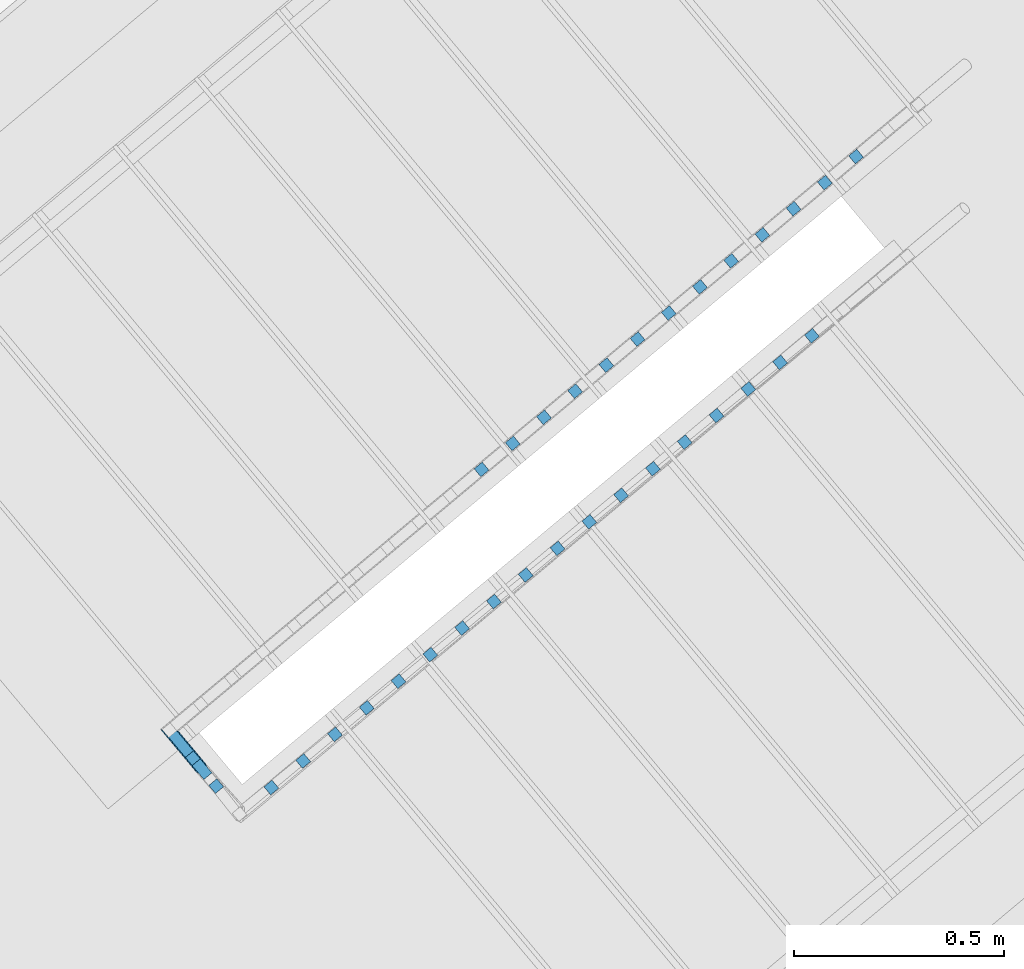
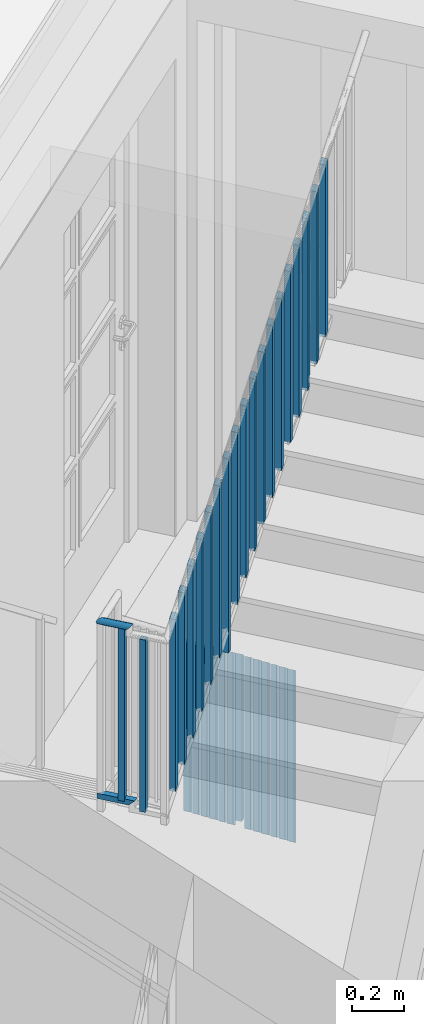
# One storey, part 55 of 67: 35 building element parts, 1 element without a shape of its own.
"""IFC4 building model written with IfcOpenShell, lengths in metres."""

from ifc_helpers import new_model, entity, si_unit, converted_unit, derived_unit, direction, frame, origin_with_axes, place, context, subcontext, project, spatial, polygons, material, type_object, element, aggregate, save


model = new_model("IFC4")

# Units and contexts
model_context = context("Model", 3, precision=1e-05, world=origin_with_axes(), true_north=direction((0.0, 1.0)))
body_context = subcontext(model_context, "Body", "Model", "MODEL_VIEW")
ifc_project = project(units=[si_unit("LENGTHUNIT", "METRE"), si_unit("AREAUNIT", "SQUARE_METRE"), si_unit("VOLUMEUNIT", "CUBIC_METRE"), converted_unit("PLANEANGLEUNIT", "DEGREE", entity("IfcPlaneAngleMeasure", 0.0174532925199), si_unit("PLANEANGLEUNIT", "RADIAN"), dimensions=[0, 0, 0, 0, 0, 0, 0]), converted_unit("TIMEUNIT", "Year", entity("IfcTimeMeasure", 31556926.0), si_unit("TIMEUNIT", "SECOND"), dimensions=[0, 0, 1, 0, 0, 0, 0]), si_unit("MASSUNIT", "GRAM", prefix="KILO"), si_unit("THERMODYNAMICTEMPERATUREUNIT", "DEGREE_CELSIUS"), si_unit("LUMINOUSINTENSITYUNIT", "LUMEN"), si_unit("ENERGYUNIT", "JOULE", prefix="MEGA"), derived_unit("THERMALCONDUCTANCEUNIT", [(si_unit("POWERUNIT", "WATT"), 1), (si_unit("LENGTHUNIT", "METRE"), -1), (si_unit("THERMODYNAMICTEMPERATUREUNIT", "KELVIN"), -1)]), derived_unit("SPECIFICHEATCAPACITYUNIT", [(si_unit("ENERGYUNIT", "JOULE"), 1), (si_unit("MASSUNIT", "GRAM", prefix="KILO"), -1), (si_unit("THERMODYNAMICTEMPERATUREUNIT", "KELVIN"), -1)]), derived_unit("MASSDENSITYUNIT", [(si_unit("MASSUNIT", "GRAM", prefix="KILO"), 1), (si_unit("VOLUMEUNIT", "CUBIC_METRE"), -1)])], contexts=[model_context])

# Site, building, storey
site_placement = place(None, frame((-0.00153261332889, -0.00661245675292, 0.0), z_axis=(0.0, 0.0, 1.0), x_axis=(1.0, 0.0, 0.0)))
site = spatial("IfcSite", under=ifc_project, at=site_placement, Name="Site", CompositionType="ELEMENT")
building_placement = place(site_placement, origin_with_axes())
building = spatial("IfcBuilding", under=site, at=building_placement, Name="Building", CompositionType="ELEMENT")
storey_placement = place(building_placement, frame((0.0, 0.0, -0.22), z_axis=(0.0, 0.0, 1.0), x_axis=(1.0, 0.0, 0.0)))
storey = spatial("IfcBuildingStorey", under=building, at=storey_placement, Name="EG", CompositionType="ELEMENT", Elevation=-0.22)

# Railing, building element parts
railing_type = type_object("IfcRailingType", Name="Geländerart", PredefinedType="NOTDEFINED")
railing_placement = place(storey_placement, frame((-0.398547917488, 23.8355657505, 0.05), z_axis=(0.0, 0.0, 1.0), x_axis=(1.0, 0.0, 0.0)))
railing = element("IfcRailing", 1, at=railing_placement, inside=storey, type_object=railing_type, Name="Geländer - 001", PredefinedType="NOTDEFINED")
ifc_material = material(Name="BEKLEIDUNG")
building_element_part_1_placement = place(railing_placement, origin_with_axes())
building_element_part_1 = element("IfcBuildingElementPart", 2, at=building_element_part_1_placement, material=ifc_material, Name="BEKLEIDUNG", PredefinedType="NOTDEFINED", context=body_context, shape_type="Tessellation", body=[
    polygons([(-0.198088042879, -0.0840608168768, 0.230543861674), (-0.182058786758, -0.103245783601, 0.230543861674), (-0.182058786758, -0.103245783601, 1.03804386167), (-0.198088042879, -0.0840608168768, 1.03804386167), (-0.178903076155, -0.0680315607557, 0.211051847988), (-0.162873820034, -0.0872165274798, 0.211051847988), (-0.162873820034, -0.0872165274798, 1.01855184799), (-0.178903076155, -0.0680315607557, 1.01855184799)], [[[1, 2, 3, 4]], [[1, 5, 6, 2]], [[2, 6, 7, 3]], [[4, 3, 7, 8]], [[5, 1, 4, 8]], [[6, 5, 8, 7]]], closed=True),
])
building_element_part_2_placement = place(railing_placement, origin_with_axes())
building_element_part_2 = element("IfcBuildingElementPart", 3, at=building_element_part_2_placement, material=ifc_material, Name="BEKLEIDUNG", PredefinedType="NOTDEFINED", context=body_context, shape_type="Tessellation", body=[
    polygons([(-0.272299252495, -0.146065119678, 0.30594278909), (-0.256269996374, -0.165250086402, 0.30594278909), (-0.256269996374, -0.165250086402, 1.11344278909), (-0.272299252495, -0.146065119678, 1.11344278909), (-0.253114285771, -0.130035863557, 0.286450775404), (-0.23708502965, -0.149220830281, 0.286450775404), (-0.23708502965, -0.149220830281, 1.0939507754), (-0.253114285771, -0.130035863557, 1.0939507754)], [[[1, 2, 3, 4]], [[1, 5, 6, 2]], [[2, 6, 7, 3]], [[4, 3, 7, 8]], [[5, 1, 4, 8]], [[6, 5, 8, 7]]], closed=True),
])
building_element_part_3_placement = place(railing_placement, origin_with_axes())
building_element_part_3 = element("IfcBuildingElementPart", 4, at=building_element_part_3_placement, material=ifc_material, Name="BEKLEIDUNG", PredefinedType="NOTDEFINED", context=body_context, shape_type="Tessellation", body=[
    polygons([(-0.346510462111, -0.20806942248, 0.381341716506), (-0.33048120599, -0.227254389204, 0.381341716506), (-0.33048120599, -0.227254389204, 1.18884171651), (-0.346510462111, -0.20806942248, 1.18884171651), (-0.327325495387, -0.192040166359, 0.36184970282), (-0.311296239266, -0.211225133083, 0.36184970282), (-0.311296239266, -0.211225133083, 1.16934970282), (-0.327325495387, -0.192040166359, 1.16934970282)], [[[1, 2, 3, 4]], [[1, 5, 6, 2]], [[2, 6, 7, 3]], [[4, 3, 7, 8]], [[5, 1, 4, 8]], [[6, 5, 8, 7]]], closed=True),
])
building_element_part_4_placement = place(railing_placement, origin_with_axes())
building_element_part_4 = element("IfcBuildingElementPart", 5, at=building_element_part_4_placement, material=ifc_material, Name="BEKLEIDUNG", PredefinedType="NOTDEFINED", context=body_context, shape_type="Tessellation", body=[
    polygons([(-0.420721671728, -0.270073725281, 0.456740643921), (-0.404692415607, -0.289258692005, 0.456740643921), (-0.404692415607, -0.289258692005, 1.26424064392), (-0.420721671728, -0.270073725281, 1.26424064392), (-0.401536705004, -0.25404446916, 0.437248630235), (-0.385507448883, -0.273229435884, 0.437248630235), (-0.385507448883, -0.273229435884, 1.24474863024), (-0.401536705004, -0.25404446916, 1.24474863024)], [[[1, 2, 3, 4]], [[1, 5, 6, 2]], [[2, 6, 7, 3]], [[4, 3, 7, 8]], [[5, 1, 4, 8]], [[6, 5, 8, 7]]], closed=True),
])
building_element_part_5_placement = place(railing_placement, origin_with_axes())
building_element_part_5 = element("IfcBuildingElementPart", 6, at=building_element_part_5_placement, material=ifc_material, Name="BEKLEIDUNG", PredefinedType="NOTDEFINED", context=body_context, shape_type="Tessellation", body=[
    polygons([(-0.494932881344, -0.332078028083, 0.532139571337), (-0.478903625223, -0.351262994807, 0.532139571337), (-0.478903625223, -0.351262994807, 1.33963957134), (-0.494932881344, -0.332078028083, 1.33963957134), (-0.47574791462, -0.316048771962, 0.512647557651), (-0.459718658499, -0.335233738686, 0.512647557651), (-0.459718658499, -0.335233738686, 1.32014755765), (-0.47574791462, -0.316048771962, 1.32014755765)], [[[1, 2, 3, 4]], [[1, 5, 6, 2]], [[2, 6, 7, 3]], [[4, 3, 7, 8]], [[5, 1, 4, 8]], [[6, 5, 8, 7]]], closed=True),
])
building_element_part_6_placement = place(railing_placement, origin_with_axes())
building_element_part_6 = element("IfcBuildingElementPart", 7, at=building_element_part_6_placement, material=ifc_material, Name="BEKLEIDUNG", PredefinedType="NOTDEFINED", context=body_context, shape_type="Tessellation", body=[
    polygons([(-0.56914409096, -0.394082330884, 0.607538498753), (-0.553114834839, -0.413267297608, 0.607538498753), (-0.553114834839, -0.413267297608, 1.41503849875), (-0.56914409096, -0.394082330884, 1.41503849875), (-0.549959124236, -0.378053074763, 0.588046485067), (-0.533929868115, -0.397238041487, 0.588046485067), (-0.533929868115, -0.397238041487, 1.39554648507), (-0.549959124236, -0.378053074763, 1.39554648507)], [[[1, 2, 3, 4]], [[1, 5, 6, 2]], [[2, 6, 7, 3]], [[4, 3, 7, 8]], [[5, 1, 4, 8]], [[6, 5, 8, 7]]], closed=True),
])
building_element_part_7_placement = place(railing_placement, origin_with_axes())
building_element_part_7 = element("IfcBuildingElementPart", 8, at=building_element_part_7_placement, material=ifc_material, Name="BEKLEIDUNG", PredefinedType="NOTDEFINED", context=body_context, shape_type="Tessellation", body=[
    polygons([(-0.643355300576, -0.456086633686, 0.708235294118), (-0.627326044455, -0.47527160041, 0.708235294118), (-0.627326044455, -0.47527160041, 1.49293742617), (-0.643355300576, -0.456086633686, 1.49293742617), (-0.624170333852, -0.440057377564, 0.708235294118), (-0.608141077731, -0.459242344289, 0.708235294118), (-0.608141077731, -0.459242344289, 1.47344541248), (-0.624170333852, -0.440057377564, 1.47344541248)], [[[1, 2, 3, 4]], [[1, 5, 6, 2]], [[2, 6, 7, 3]], [[4, 3, 7, 8]], [[5, 1, 4, 8]], [[6, 5, 8, 7]]], closed=True),
])
building_element_part_8_placement = place(railing_placement, origin_with_axes())
building_element_part_8 = element("IfcBuildingElementPart", 9, at=building_element_part_8_placement, material=ifc_material, Name="BEKLEIDUNG", PredefinedType="NOTDEFINED", context=body_context, shape_type="Tessellation", body=[
    polygons([(-0.717566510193, -0.518090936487, 0.758336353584), (-0.701537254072, -0.537275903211, 0.758336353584), (-0.701537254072, -0.537275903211, 1.56583635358), (-0.717566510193, -0.518090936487, 1.56583635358), (-0.698381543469, -0.502061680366, 0.738844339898), (-0.682352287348, -0.52124664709, 0.738844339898), (-0.682352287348, -0.52124664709, 1.5463443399), (-0.698381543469, -0.502061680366, 1.5463443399)], [[[1, 2, 3, 4]], [[1, 5, 6, 2]], [[2, 6, 7, 3]], [[4, 3, 7, 8]], [[5, 1, 4, 8]], [[6, 5, 8, 7]]], closed=True),
])
building_element_part_9_placement = place(railing_placement, origin_with_axes())
building_element_part_9 = element("IfcBuildingElementPart", 10, at=building_element_part_9_placement, material=ifc_material, Name="BEKLEIDUNG", PredefinedType="NOTDEFINED", context=body_context, shape_type="Tessellation", body=[
    polygons([(-0.791777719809, -0.580095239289, 0.833735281), (-0.775748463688, -0.599280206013, 0.833735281), (-0.775748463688, -0.599280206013, 1.641235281), (-0.791777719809, -0.580095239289, 1.641235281), (-0.772592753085, -0.564065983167, 0.814243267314), (-0.756563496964, -0.583250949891, 0.814243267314), (-0.756563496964, -0.583250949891, 1.62174326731), (-0.772592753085, -0.564065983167, 1.62174326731)], [[[1, 2, 3, 4]], [[1, 5, 6, 2]], [[2, 6, 7, 3]], [[4, 3, 7, 8]], [[5, 1, 4, 8]], [[6, 5, 8, 7]]], closed=True),
])
building_element_part_10_placement = place(railing_placement, origin_with_axes())
building_element_part_10 = element("IfcBuildingElementPart", 11, at=building_element_part_10_placement, material=ifc_material, Name="BEKLEIDUNG", PredefinedType="NOTDEFINED", context=body_context, shape_type="Tessellation", body=[
    polygons([(-0.865988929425, -0.64209954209, 0.909134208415), (-0.849959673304, -0.661284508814, 0.909134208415), (-0.849959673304, -0.661284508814, 1.71663420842), (-0.865988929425, -0.64209954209, 1.71663420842), (-0.846803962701, -0.626070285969, 0.889642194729), (-0.83077470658, -0.645255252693, 0.889642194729), (-0.83077470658, -0.645255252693, 1.69714219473), (-0.846803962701, -0.626070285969, 1.69714219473)], [[[1, 2, 3, 4]], [[1, 5, 6, 2]], [[2, 6, 7, 3]], [[4, 3, 7, 8]], [[5, 1, 4, 8]], [[6, 5, 8, 7]]], closed=True),
])
building_element_part_11_placement = place(railing_placement, origin_with_axes())
building_element_part_11 = element("IfcBuildingElementPart", 12, at=building_element_part_11_placement, material=ifc_material, Name="BEKLEIDUNG", PredefinedType="NOTDEFINED", context=body_context, shape_type="Tessellation", body=[
    polygons([(-0.940200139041, -0.704103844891, 0.984533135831), (-0.92417088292, -0.723288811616, 0.984533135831), (-0.92417088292, -0.723288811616, 1.79203313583), (-0.940200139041, -0.704103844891, 1.79203313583), (-0.921015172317, -0.68807458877, 0.965041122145), (-0.904985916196, -0.707259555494, 0.965041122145), (-0.904985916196, -0.707259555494, 1.77254112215), (-0.921015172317, -0.68807458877, 1.77254112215)], [[[1, 2, 3, 4]], [[1, 5, 6, 2]], [[2, 6, 7, 3]], [[4, 3, 7, 8]], [[5, 1, 4, 8]], [[6, 5, 8, 7]]], closed=True),
])
building_element_part_12_placement = place(railing_placement, origin_with_axes())
building_element_part_12 = element("IfcBuildingElementPart", 13, at=building_element_part_12_placement, material=ifc_material, Name="BEKLEIDUNG", PredefinedType="NOTDEFINED", context=body_context, shape_type="Tessellation", body=[
    polygons([(-1.01441134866, -0.766108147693, 1.05993206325), (-0.998382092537, -0.785293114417, 1.05993206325), (-0.998382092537, -0.785293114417, 1.86743206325), (-1.01441134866, -0.766108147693, 1.86743206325), (-0.995226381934, -0.750078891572, 1.04044004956), (-0.979197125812, -0.769263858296, 1.04044004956), (-0.979197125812, -0.769263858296, 1.84794004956), (-0.995226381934, -0.750078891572, 1.84794004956)], [[[1, 2, 3, 4]], [[1, 5, 6, 2]], [[2, 6, 7, 3]], [[4, 3, 7, 8]], [[5, 1, 4, 8]], [[6, 5, 8, 7]]], closed=True),
])
building_element_part_13_placement = place(railing_placement, origin_with_axes())
building_element_part_13 = element("IfcBuildingElementPart", 14, at=building_element_part_13_placement, material=ifc_material, Name="BEKLEIDUNG", PredefinedType="NOTDEFINED", context=body_context, shape_type="Tessellation", body=[
    polygons([(-1.08862255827, -0.828112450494, 1.13533099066), (-1.07259330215, -0.847297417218, 1.13533099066), (-1.07259330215, -0.847297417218, 1.94283099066), (-1.08862255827, -0.828112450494, 1.94283099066), (-1.06943759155, -0.812083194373, 1.11583897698), (-1.05340833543, -0.831268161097, 1.11583897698), (-1.05340833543, -0.831268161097, 1.92333897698), (-1.06943759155, -0.812083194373, 1.92333897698)], [[[1, 2, 3, 4]], [[1, 5, 6, 2]], [[2, 6, 7, 3]], [[4, 3, 7, 8]], [[5, 1, 4, 8]], [[6, 5, 8, 7]]], closed=True),
])
building_element_part_14_placement = place(railing_placement, origin_with_axes())
building_element_part_14 = element("IfcBuildingElementPart", 15, at=building_element_part_14_placement, material=ifc_material, Name="BEKLEIDUNG", PredefinedType="NOTDEFINED", context=body_context, shape_type="Tessellation", body=[
    polygons([(-1.79199842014, -1.45162626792, 2.65558823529), (-1.792319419, -1.45159751, 2.65819295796), (-1.72639698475, -1.53049001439, 2.65819295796), (-1.72789228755, -1.52834511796, 2.65558823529), (-1.792319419, -1.45159751, 2.65298351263), (-1.79327266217, -1.45151211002, 2.65045793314), (-1.79482918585, -1.45137266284, 2.64808823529), (-1.79694169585, -1.45118340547, 2.64594642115), (-1.79954600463, -1.4509500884, 2.64409756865), (-1.80256298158, -1.45067980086, 2.64259785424), (-1.80590095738, -1.45038075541, 2.64149284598), (-1.80945850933, -1.45006203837, 2.640816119), (-1.81312754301, -1.44973333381, 2.64058823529), (-1.8167965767, -1.44940462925, 2.640816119), (-1.82035412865, -1.44908591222, 2.64149284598), (-1.82369210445, -1.44878686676, 2.64259785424), (-1.8267090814, -1.44851657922, 2.64409756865), (-1.82931339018, -1.44828326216, 2.64594642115), (-1.83142590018, -1.44809400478, 2.64808823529), (-1.83298242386, -1.4479545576, 2.65045793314), (-1.83393566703, -1.44786915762, 2.65298351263), (-1.83425666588, -1.4478403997, 2.65558823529), (-1.83393566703, -1.44786915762, 2.65819295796), (-1.83298242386, -1.4479545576, 2.66071853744), (-1.83142590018, -1.44809400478, 2.66308823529), (-1.82931339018, -1.44828326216, 2.66523004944), (-1.8267090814, -1.44851657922, 2.66707890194), (-1.82369210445, -1.44878686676, 2.66857861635), (-1.82035412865, -1.44908591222, 2.66968362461), (-1.8167965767, -1.44940462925, 2.67036035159), (-1.81312754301, -1.44973333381, 2.67058823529), (-1.80945850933, -1.45006203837, 2.67036035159), (-1.80590095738, -1.45038075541, 2.66968362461), (-1.80256298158, -1.45067980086, 2.66857861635), (-1.79954600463, -1.4509500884, 2.66707890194), (-1.79694169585, -1.45118340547, 2.66523004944), (-1.79482918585, -1.45137266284, 2.66308823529), (-1.79327266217, -1.45151211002, 2.66071853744), (-1.72529685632, -1.53286198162, 2.66071853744), (-1.7246253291, -1.53538894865, 2.66308823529), (-1.7244028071, -1.53799413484, 2.66523004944), (-1.72463605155, -1.54059838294, 2.66707890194), (-1.72531797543, -1.54312256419, 2.66857861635), (-1.72642785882, -1.54548998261, 2.66968362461), (-1.72793197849, -1.5476287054, 2.67036035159), (-1.72978463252, -1.54947374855, 2.67058823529), (-1.73192952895, -1.55096905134, 2.67036035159), (-1.73430149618, -1.55206917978, 2.66968362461), (-1.73682846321, -1.552740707, 2.66857861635), (-1.7394336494, -1.55296322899, 2.66707890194), (-1.7420378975, -1.55272998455, 2.66523004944), (-1.74456207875, -1.55204806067, 2.66308823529), (-1.74692949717, -1.55093817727, 2.66071853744), (-1.74906821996, -1.5494340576, 2.65819295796), (-1.75091326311, -1.54758140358, 2.65558823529), (-1.7524085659, -1.54543650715, 2.65298351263), (-1.75350869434, -1.54306453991, 2.65045793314), (-1.75418022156, -1.54053757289, 2.64808823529), (-1.75440274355, -1.53793238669, 2.64594642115), (-1.7541694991, -1.53532813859, 2.64409756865), (-1.75348757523, -1.53280395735, 2.64259785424), (-1.75237769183, -1.53043653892, 2.64149284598), (-1.75087357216, -1.52829781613, 2.640816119), (-1.74902091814, -1.52645277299, 2.64058823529), (-1.74687602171, -1.52495747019, 2.640816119), (-1.74450405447, -1.52385734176, 2.64149284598), (-1.74197708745, -1.52318581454, 2.64259785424), (-1.73937190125, -1.52296329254, 2.64409756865), (-1.73676765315, -1.52319653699, 2.64594642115), (-1.7342434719, -1.52387846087, 2.64808823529), (-1.73187605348, -1.52498834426, 2.65045793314), (-1.72973733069, -1.52649246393, 2.65298351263)], [[[1, 2, 3, 4]], [[1, 5, 6, 7, 8, 9, 10, 11, 12, 13, 14, 15, 16, 17, 18, 19, 20, 21, 22, 23, 24, 25, 26, 27, 28, 29, 30, 31, 32, 33, 34, 35, 36, 37, 38, 2]], [[2, 38, 39, 3]], [[4, 3, 39, 40, 41, 42, 43, 44, 45, 46, 47, 48, 49, 50, 51, 52, 53, 54, 55, 56, 57, 58, 59, 60, 61, 62, 63, 64, 65, 66, 67, 68, 69, 70, 71, 72]], [[5, 1, 4, 72]], [[6, 5, 72, 71]], [[7, 6, 71, 70]], [[8, 7, 70, 69]], [[9, 8, 69, 68]], [[10, 9, 68, 67]], [[11, 10, 67, 66]], [[12, 11, 66, 65]], [[13, 12, 65, 64]], [[14, 13, 64, 63]], [[15, 14, 63, 62]], [[16, 15, 62, 61]], [[17, 16, 61, 60]], [[18, 17, 60, 59]], [[19, 18, 59, 58]], [[20, 19, 58, 57]], [[21, 20, 57, 56]], [[22, 21, 56, 55]], [[23, 22, 55, 54]], [[24, 23, 54, 53]], [[25, 24, 53, 52]], [[26, 25, 52, 51]], [[27, 26, 51, 50]], [[28, 27, 50, 49]], [[29, 28, 49, 48]], [[30, 29, 48, 47]], [[31, 30, 47, 46]], [[32, 31, 46, 45]], [[33, 32, 45, 44]], [[34, 33, 44, 43]], [[35, 34, 43, 42]], [[36, 35, 42, 41]], [[37, 36, 41, 40]], [[38, 37, 40, 39]]], closed=True),
])
building_element_part_15_placement = place(railing_placement, origin_with_axes())
building_element_part_15 = element("IfcBuildingElementPart", 16, at=building_element_part_15_placement, material=ifc_material, Name="BEKLEIDUNG", PredefinedType="NOTDEFINED", context=body_context, shape_type="Tessellation", body=[
    polygons([(-1.83073514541, -1.44815588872, 1.85308823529), (-1.83073514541, -1.44815588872, 1.82808823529), (-1.74739182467, -1.5478967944, 1.82808823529), (-1.73136158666, -1.5670809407, 1.85308823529), (-1.79551994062, -1.4513107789, 1.85308823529), (-1.79551994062, -1.4513107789, 1.82808823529), (-1.72820767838, -1.53186655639, 1.82808823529), (-1.71217744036, -1.55105070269, 1.85308823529)], [[[1, 2, 3, 4]], [[1, 5, 6, 2]], [[2, 6, 7, 3]], [[4, 3, 7, 8]], [[5, 1, 4, 8]], [[6, 5, 8, 7]]], closed=True),
])
building_element_part_16_placement = place(railing_placement, origin_with_axes())
building_element_part_16 = element("IfcBuildingElementPart", 17, at=building_element_part_16_placement, material=ifc_material, Name="BEKLEIDUNG", PredefinedType="NOTDEFINED", context=body_context, shape_type="Tessellation", body=[
    polygons([(-1.75914255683, -1.53383413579, 1.84058823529), (-1.73995841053, -1.51780389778, 1.84058823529), (-1.73995841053, -1.51780389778, 2.64808823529), (-1.75914255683, -1.53383413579, 2.64808823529), (-1.77517279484, -1.51464998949, 1.84058823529), (-1.75598864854, -1.49861975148, 1.84058823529), (-1.75598864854, -1.49861975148, 2.64808823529), (-1.77517279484, -1.51464998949, 2.64808823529)], [[[1, 2, 3, 4]], [[1, 5, 6, 2]], [[2, 6, 7, 3]], [[4, 3, 7, 8]], [[5, 1, 4, 8]], [[6, 5, 8, 7]]], closed=True),
])
building_element_part_17_placement = place(railing_placement, origin_with_axes())
building_element_part_17 = element("IfcBuildingElementPart", 18, at=building_element_part_17_placement, material=ifc_material, Name="BEKLEIDUNG", PredefinedType="NOTDEFINED", context=body_context, shape_type="Tessellation", body=[
    polygons([(-1.7035806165, -1.60032774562, 1.80989887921), (-1.6843964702, -1.5842975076, 1.80989887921), (-1.6843964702, -1.5842975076, 2.61739887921), (-1.7035806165, -1.60032774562, 2.61739887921), (-1.71961085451, -1.58114359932, 1.80989887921), (-1.70042670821, -1.5651133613, 1.80989887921), (-1.70042670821, -1.5651133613, 2.61739887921), (-1.71961085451, -1.58114359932, 2.61739887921)], [[[1, 2, 3, 4]], [[1, 5, 6, 2]], [[2, 6, 7, 3]], [[4, 3, 7, 8]], [[5, 1, 4, 8]], [[6, 5, 8, 7]]], closed=True),
])
building_element_part_18_placement = place(railing_placement, origin_with_axes())
building_element_part_18 = element("IfcBuildingElementPart", 19, at=building_element_part_18_placement, material=ifc_material, Name="BEKLEIDUNG", PredefinedType="NOTDEFINED", context=body_context, shape_type="Tessellation", body=[
    polygons([(-1.55322027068, -1.58760797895, 1.87805222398), (-1.5692505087, -1.56842383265, 1.87805222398), (-1.5692505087, -1.56842383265, 2.68555222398), (-1.55322027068, -1.58760797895, 2.68555222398), (-1.57240441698, -1.60363821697, 1.86270754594), (-1.588434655, -1.58445407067, 1.86270754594), (-1.588434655, -1.58445407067, 2.67020754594), (-1.57240441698, -1.60363821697, 2.67020754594)], [[[1, 2, 3, 4]], [[1, 5, 6, 2]], [[2, 6, 7, 3]], [[4, 3, 7, 8]], [[5, 1, 4, 8]], [[6, 5, 8, 7]]], closed=True),
])
building_element_part_19_placement = place(railing_placement, origin_with_axes())
building_element_part_19 = element("IfcBuildingElementPart", 20, at=building_element_part_19_placement, material=ifc_material, Name="BEKLEIDUNG", PredefinedType="NOTDEFINED", context=body_context, shape_type="Tessellation", body=[
    polygons([(-1.4776060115, -1.52442484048, 1.93853322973), (-1.49363624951, -1.50524069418, 1.93853322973), (-1.49363624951, -1.50524069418, 2.74603322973), (-1.4776060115, -1.52442484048, 2.74603322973), (-1.4967901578, -1.54045507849, 1.92318855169), (-1.51282039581, -1.52127093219, 1.92318855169), (-1.51282039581, -1.52127093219, 2.73068855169), (-1.4967901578, -1.54045507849, 2.73068855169)], [[[1, 2, 3, 4]], [[1, 5, 6, 2]], [[2, 6, 7, 3]], [[4, 3, 7, 8]], [[5, 1, 4, 8]], [[6, 5, 8, 7]]], closed=True),
])
building_element_part_20_placement = place(railing_placement, origin_with_axes())
building_element_part_20 = element("IfcBuildingElementPart", 21, at=building_element_part_20_placement, material=ifc_material, Name="BEKLEIDUNG", PredefinedType="NOTDEFINED", context=body_context, shape_type="Tessellation", body=[
    polygons([(-1.40199175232, -1.461241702, 1.99901423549), (-1.41802199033, -1.4420575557, 1.99901423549), (-1.41802199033, -1.4420575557, 2.80651423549), (-1.40199175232, -1.461241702, 2.80651423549), (-1.42117589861, -1.47727194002, 1.98366955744), (-1.43720613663, -1.45808779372, 1.98366955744), (-1.43720613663, -1.45808779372, 2.79116955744), (-1.42117589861, -1.47727194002, 2.79116955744)], [[[1, 2, 3, 4]], [[1, 5, 6, 2]], [[2, 6, 7, 3]], [[4, 3, 7, 8]], [[5, 1, 4, 8]], [[6, 5, 8, 7]]], closed=True),
])
building_element_part_21_placement = place(railing_placement, origin_with_axes())
building_element_part_21 = element("IfcBuildingElementPart", 22, at=building_element_part_21_placement, material=ifc_material, Name="BEKLEIDUNG", PredefinedType="NOTDEFINED", context=body_context, shape_type="Tessellation", body=[
    polygons([(-1.32637749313, -1.39805856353, 2.05949524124), (-1.34240773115, -1.37887441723, 2.05949524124), (-1.34240773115, -1.37887441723, 2.86699524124), (-1.32637749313, -1.39805856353, 2.86699524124), (-1.34556163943, -1.41408880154, 2.04415056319), (-1.36159187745, -1.39490465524, 2.04415056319), (-1.36159187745, -1.39490465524, 2.85165056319), (-1.34556163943, -1.41408880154, 2.85165056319)], [[[1, 2, 3, 4]], [[1, 5, 6, 2]], [[2, 6, 7, 3]], [[4, 3, 7, 8]], [[5, 1, 4, 8]], [[6, 5, 8, 7]]], closed=True),
])
building_element_part_22_placement = place(railing_placement, origin_with_axes())
building_element_part_22 = element("IfcBuildingElementPart", 23, at=building_element_part_22_placement, material=ifc_material, Name="BEKLEIDUNG", PredefinedType="NOTDEFINED", context=body_context, shape_type="Tessellation", body=[
    polygons([(-1.25076323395, -1.33487542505, 2.11997624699), (-1.26679347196, -1.31569127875, 2.11997624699), (-1.26679347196, -1.31569127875, 2.92747624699), (-1.25076323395, -1.33487542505, 2.92747624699), (-1.26994738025, -1.35090566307, 2.10463156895), (-1.28597761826, -1.33172151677, 2.10463156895), (-1.28597761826, -1.33172151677, 2.91213156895), (-1.26994738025, -1.35090566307, 2.91213156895)], [[[1, 2, 3, 4]], [[1, 5, 6, 2]], [[2, 6, 7, 3]], [[4, 3, 7, 8]], [[5, 1, 4, 8]], [[6, 5, 8, 7]]], closed=True),
])
building_element_part_23_placement = place(railing_placement, origin_with_axes())
building_element_part_23 = element("IfcBuildingElementPart", 24, at=building_element_part_23_placement, material=ifc_material, Name="BEKLEIDUNG", PredefinedType="NOTDEFINED", context=body_context, shape_type="Tessellation", body=[
    polygons([(-1.17514897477, -1.27169228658, 2.18045725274), (-1.19117921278, -1.25250814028, 2.18045725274), (-1.19117921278, -1.25250814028, 2.98795725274), (-1.17514897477, -1.27169228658, 2.98795725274), (-1.19433312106, -1.28772252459, 2.1651125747), (-1.21036335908, -1.26853837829, 2.1651125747), (-1.21036335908, -1.26853837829, 2.9726125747), (-1.19433312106, -1.28772252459, 2.9726125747)], [[[1, 2, 3, 4]], [[1, 5, 6, 2]], [[2, 6, 7, 3]], [[4, 3, 7, 8]], [[5, 1, 4, 8]], [[6, 5, 8, 7]]], closed=True),
])
building_element_part_24_placement = place(railing_placement, origin_with_axes())
building_element_part_24 = element("IfcBuildingElementPart", 25, at=building_element_part_24_placement, material=ifc_material, Name="BEKLEIDUNG", PredefinedType="NOTDEFINED", context=body_context, shape_type="Tessellation", body=[
    polygons([(-1.09953471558, -1.2085091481, 2.12470588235), (-1.1155649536, -1.1893250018, 2.12470588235), (-1.1155649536, -1.1893250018, 3.05093825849), (-1.09953471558, -1.2085091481, 3.05093825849), (-1.11871886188, -1.22453938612, 2.12470588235), (-1.13474909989, -1.20535523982, 2.12470588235), (-1.13474909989, -1.20535523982, 3.03559358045), (-1.11871886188, -1.22453938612, 3.03559358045)], [[[1, 2, 3, 4]], [[1, 5, 6, 2]], [[2, 6, 7, 3]], [[4, 3, 7, 8]], [[5, 1, 4, 8]], [[6, 5, 8, 7]]], closed=True),
])
building_element_part_25_placement = place(railing_placement, origin_with_axes())
building_element_part_25 = element("IfcBuildingElementPart", 26, at=building_element_part_25_placement, material=ifc_material, Name="BEKLEIDUNG", PredefinedType="NOTDEFINED", context=body_context, shape_type="Tessellation", body=[
    polygons([(-1.0239204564, -1.14532600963, 2.30141926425), (-1.03995069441, -1.12614186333, 2.30141926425), (-1.03995069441, -1.12614186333, 3.10891926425), (-1.0239204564, -1.14532600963, 3.10891926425), (-1.0431046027, -1.16135624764, 2.2860745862), (-1.05913484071, -1.14217210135, 2.2860745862), (-1.05913484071, -1.14217210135, 3.0935745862), (-1.0431046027, -1.16135624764, 3.0935745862)], [[[1, 2, 3, 4]], [[1, 5, 6, 2]], [[2, 6, 7, 3]], [[4, 3, 7, 8]], [[5, 1, 4, 8]], [[6, 5, 8, 7]]], closed=True),
])
building_element_part_26_placement = place(railing_placement, origin_with_axes())
building_element_part_26 = element("IfcBuildingElementPart", 27, at=building_element_part_26_placement, material=ifc_material, Name="BEKLEIDUNG", PredefinedType="NOTDEFINED", context=body_context, shape_type="Tessellation", body=[
    polygons([(-0.948306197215, -1.08214287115, 2.36190027), (-0.96433643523, -1.06295872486, 2.36190027), (-0.96433643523, -1.06295872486, 3.16940027), (-0.948306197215, -1.08214287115, 3.16940027), (-0.967490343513, -1.09817310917, 2.34655559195), (-0.983520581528, -1.07898896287, 2.34655559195), (-0.983520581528, -1.07898896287, 3.15405559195), (-0.967490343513, -1.09817310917, 3.15405559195)], [[[1, 2, 3, 4]], [[1, 5, 6, 2]], [[2, 6, 7, 3]], [[4, 3, 7, 8]], [[5, 1, 4, 8]], [[6, 5, 8, 7]]], closed=True),
])
building_element_part_27_placement = place(railing_placement, origin_with_axes())
building_element_part_27 = element("IfcBuildingElementPart", 28, at=building_element_part_27_placement, material=ifc_material, Name="BEKLEIDUNG", PredefinedType="NOTDEFINED", context=body_context, shape_type="Tessellation", body=[
    polygons([(-0.872691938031, -1.01895973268, 2.42238127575), (-0.888722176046, -0.999775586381, 2.42238127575), (-0.888722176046, -0.999775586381, 3.22988127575), (-0.872691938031, -1.01895973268, 3.22988127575), (-0.891876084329, -1.03498997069, 2.40703659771), (-0.907906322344, -1.0158058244, 2.40703659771), (-0.907906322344, -1.0158058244, 3.21453659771), (-0.891876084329, -1.03498997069, 3.21453659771)], [[[1, 2, 3, 4]], [[1, 5, 6, 2]], [[2, 6, 7, 3]], [[4, 3, 7, 8]], [[5, 1, 4, 8]], [[6, 5, 8, 7]]], closed=True),
])
building_element_part_28_placement = place(railing_placement, origin_with_axes())
building_element_part_28 = element("IfcBuildingElementPart", 29, at=building_element_part_28_placement, material=ifc_material, Name="BEKLEIDUNG", PredefinedType="NOTDEFINED", context=body_context, shape_type="Tessellation", body=[
    polygons([(-0.797077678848, -0.955776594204, 2.4828622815), (-0.813107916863, -0.936592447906, 2.4828622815), (-0.813107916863, -0.936592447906, 3.2903622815), (-0.797077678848, -0.955776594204, 3.2903622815), (-0.816261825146, -0.971806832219, 2.46751760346), (-0.832292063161, -0.952622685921, 2.46751760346), (-0.832292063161, -0.952622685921, 3.27501760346), (-0.816261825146, -0.971806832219, 3.27501760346)], [[[1, 2, 3, 4]], [[1, 5, 6, 2]], [[2, 6, 7, 3]], [[4, 3, 7, 8]], [[5, 1, 4, 8]], [[6, 5, 8, 7]]], closed=True),
])
building_element_part_29_placement = place(railing_placement, origin_with_axes())
building_element_part_29 = element("IfcBuildingElementPart", 30, at=building_element_part_29_placement, material=ifc_material, Name="BEKLEIDUNG", PredefinedType="NOTDEFINED", context=body_context, shape_type="Tessellation", body=[
    polygons([(-0.721463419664, -0.892593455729, 2.54334328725), (-0.737493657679, -0.873409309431, 2.54334328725), (-0.737493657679, -0.873409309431, 3.35084328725), (-0.721463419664, -0.892593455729, 3.35084328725), (-0.740647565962, -0.908623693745, 2.52799860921), (-0.756677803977, -0.889439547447, 2.52799860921), (-0.756677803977, -0.889439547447, 3.33549860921), (-0.740647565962, -0.908623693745, 3.33549860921)], [[[1, 2, 3, 4]], [[1, 5, 6, 2]], [[2, 6, 7, 3]], [[4, 3, 7, 8]], [[5, 1, 4, 8]], [[6, 5, 8, 7]]], closed=True),
])
building_element_part_30_placement = place(railing_placement, origin_with_axes())
building_element_part_30 = element("IfcBuildingElementPart", 31, at=building_element_part_30_placement, material=ifc_material, Name="BEKLEIDUNG", PredefinedType="NOTDEFINED", context=body_context, shape_type="Tessellation", body=[
    polygons([(-0.645849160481, -0.829410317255, 2.60382429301), (-0.661879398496, -0.810226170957, 2.60382429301), (-0.661879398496, -0.810226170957, 3.41132429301), (-0.645849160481, -0.829410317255, 3.41132429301), (-0.665033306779, -0.84544055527, 2.58847961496), (-0.681063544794, -0.826256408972, 2.58847961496), (-0.681063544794, -0.826256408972, 3.39597961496), (-0.665033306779, -0.84544055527, 3.39597961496)], [[[1, 2, 3, 4]], [[1, 5, 6, 2]], [[2, 6, 7, 3]], [[4, 3, 7, 8]], [[5, 1, 4, 8]], [[6, 5, 8, 7]]], closed=True),
])
building_element_part_31_placement = place(railing_placement, origin_with_axes())
building_element_part_31 = element("IfcBuildingElementPart", 32, at=building_element_part_31_placement, material=ifc_material, Name="BEKLEIDUNG", PredefinedType="NOTDEFINED", context=body_context, shape_type="Tessellation", body=[
    polygons([(-0.570234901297, -0.76622717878, 2.65588235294), (-0.586265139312, -0.747043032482, 2.65588235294), (-0.586265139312, -0.747043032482, 3.47430529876), (-0.570234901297, -0.76622717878, 3.47430529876), (-0.589419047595, -0.782257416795, 2.65588235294), (-0.60544928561, -0.763073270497, 2.65588235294), (-0.60544928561, -0.763073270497, 3.45896062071), (-0.589419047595, -0.782257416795, 3.45896062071)], [[[1, 2, 3, 4]], [[1, 5, 6, 2]], [[2, 6, 7, 3]], [[4, 3, 7, 8]], [[5, 1, 4, 8]], [[6, 5, 8, 7]]], closed=True),
])
building_element_part_32_placement = place(railing_placement, origin_with_axes())
building_element_part_32 = element("IfcBuildingElementPart", 33, at=building_element_part_32_placement, material=ifc_material, Name="BEKLEIDUNG", PredefinedType="NOTDEFINED", context=body_context, shape_type="Tessellation", body=[
    polygons([(-0.494620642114, -0.703044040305, 2.72478630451), (-0.510650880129, -0.683859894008, 2.72478630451), (-0.510650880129, -0.683859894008, 3.53228630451), (-0.494620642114, -0.703044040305, 3.53228630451), (-0.513804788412, -0.719074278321, 2.70944162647), (-0.529835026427, -0.699890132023, 2.70944162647), (-0.529835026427, -0.699890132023, 3.51694162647), (-0.513804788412, -0.719074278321, 3.51694162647)], [[[1, 2, 3, 4]], [[1, 5, 6, 2]], [[2, 6, 7, 3]], [[4, 3, 7, 8]], [[5, 1, 4, 8]], [[6, 5, 8, 7]]], closed=True),
])
building_element_part_33_placement = place(railing_placement, origin_with_axes())
building_element_part_33 = element("IfcBuildingElementPart", 34, at=building_element_part_33_placement, material=ifc_material, Name="BEKLEIDUNG", PredefinedType="NOTDEFINED", context=body_context, shape_type="Tessellation", body=[
    polygons([(-0.41900638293, -0.639860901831, 2.78526731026), (-0.435036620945, -0.620676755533, 2.78526731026), (-0.435036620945, -0.620676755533, 3.59276731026), (-0.41900638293, -0.639860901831, 3.59276731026), (-0.438190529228, -0.655891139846, 2.76992263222), (-0.454220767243, -0.636706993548, 2.76992263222), (-0.454220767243, -0.636706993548, 3.57742263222), (-0.438190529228, -0.655891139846, 3.57742263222)], [[[1, 2, 3, 4]], [[1, 5, 6, 2]], [[2, 6, 7, 3]], [[4, 3, 7, 8]], [[5, 1, 4, 8]], [[6, 5, 8, 7]]], closed=True),
])
building_element_part_34_placement = place(railing_placement, origin_with_axes())
building_element_part_34 = element("IfcBuildingElementPart", 35, at=building_element_part_34_placement, material=ifc_material, Name="BEKLEIDUNG", PredefinedType="NOTDEFINED", context=body_context, shape_type="Tessellation", body=[
    polygons([(-0.343392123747, -0.576677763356, 2.84574831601), (-0.359422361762, -0.557493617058, 2.84574831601), (-0.359422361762, -0.557493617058, 3.65324831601), (-0.343392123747, -0.576677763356, 3.65324831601), (-0.362576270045, -0.592708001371, 2.83040363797), (-0.37860650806, -0.573523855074, 2.83040363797), (-0.37860650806, -0.573523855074, 3.63790363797), (-0.362576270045, -0.592708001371, 3.63790363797)], [[[1, 2, 3, 4]], [[1, 5, 6, 2]], [[2, 6, 7, 3]], [[4, 3, 7, 8]], [[5, 1, 4, 8]], [[6, 5, 8, 7]]], closed=True),
])
building_element_part_35_placement = place(railing_placement, origin_with_axes())
building_element_part_35 = element("IfcBuildingElementPart", 36, at=building_element_part_35_placement, material=ifc_material, Name="BEKLEIDUNG", PredefinedType="NOTDEFINED", context=body_context, shape_type="Tessellation", body=[
    polygons([(-0.267777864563, -0.513494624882, 2.90622932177), (-0.283808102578, -0.494310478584, 2.90622932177), (-0.283808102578, -0.494310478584, 3.71372932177), (-0.267777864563, -0.513494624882, 3.71372932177), (-0.286962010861, -0.529524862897, 2.89088464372), (-0.302992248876, -0.510340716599, 2.89088464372), (-0.302992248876, -0.510340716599, 3.69838464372), (-0.286962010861, -0.529524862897, 3.69838464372)], [[[1, 2, 3, 4]], [[1, 5, 6, 2]], [[2, 6, 7, 3]], [[4, 3, 7, 8]], [[5, 1, 4, 8]], [[6, 5, 8, 7]]], closed=True),
])
aggregate(railing, [building_element_part_1, building_element_part_2, building_element_part_3, building_element_part_4, building_element_part_5, building_element_part_6, building_element_part_7, building_element_part_8, building_element_part_9, building_element_part_10, building_element_part_11, building_element_part_12, building_element_part_13, building_element_part_14, building_element_part_15, building_element_part_16, building_element_part_17, building_element_part_18, building_element_part_19, building_element_part_20, building_element_part_21, building_element_part_22, building_element_part_23, building_element_part_24, building_element_part_25, building_element_part_26, building_element_part_27, building_element_part_28, building_element_part_29, building_element_part_30, building_element_part_31, building_element_part_32, building_element_part_33, building_element_part_34, building_element_part_35])

save(model, "model.ifc")
